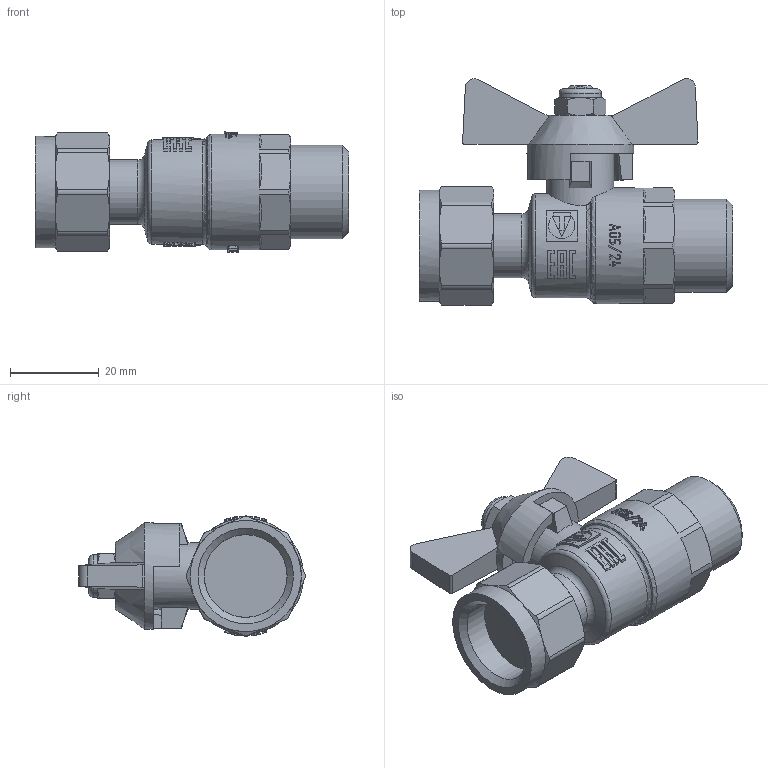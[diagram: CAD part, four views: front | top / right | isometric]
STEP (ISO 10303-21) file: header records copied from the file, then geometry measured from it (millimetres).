
FILE_DESCRIPTION(('STEP AP203'), '1');
FILE_NAME('VT.260.N.0404', '', ('UNSPECIFIED'), ('UNSPECIFIED'), 'C3D Converter', 'C3D Toolkit', '');
FILE_SCHEMA(('CONFIG_CONTROL_DESIGN'));
Length unit declared in the file: millimetre
Products named in the file (1): ВР.491816.043.000 СБ
Bounding box: 70.45 x 50.99 x 27 mm (x, y, z)
Volume: 30885.9 mm3; surface area: 13189.6 mm2
Topology: 2 solids, 2 shells, 630 faces, 1695 edges, 1106 vertices
Faces by surface type: plane 267, extrusion 224, cylinder 64, cone 61, torus 14
Full cylindrical faces by diameter (mm): 9.5 x1, 10.5 x1, 12 x1, 14.4 x1, 15 x2, 16.5 x1, 18.6 x1, 18.632 x2, 20.7 x1, 20.955 x1, 23.5 x1, 24 x1, 25 x1, 26 x1
Entity records: 28639 total; most frequent: CARTESIAN_POINT 14142, ORIENTED_EDGE 3286, DIRECTION 2326, EDGE_CURVE 1643, VERTEX_POINT 1099, VECTOR 894, B_SPLINE_CURVE_WITH_KNOTS 808, AXIS2_PLACEMENT_3D 716
